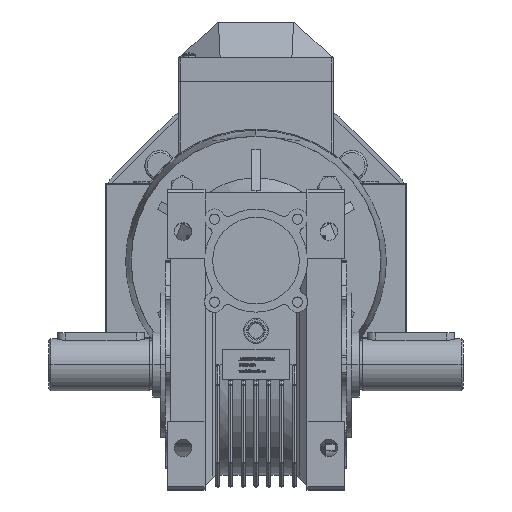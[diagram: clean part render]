
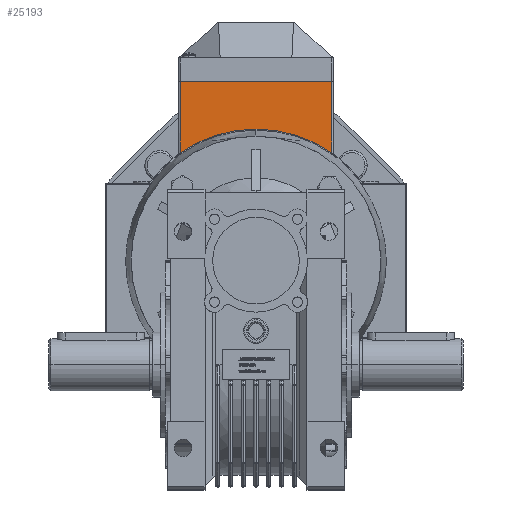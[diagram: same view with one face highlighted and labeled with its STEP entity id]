
A CAD part, top view. The second image highlights one B-rep face of the part: STEP entity #25193.
In plain terms, the highlighted planar face has unit normal (0, 0, 1).
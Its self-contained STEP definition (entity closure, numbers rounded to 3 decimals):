
#6274 = VERTEX_POINT ( 'NONE', #113064 ) ;
#6855 = VERTEX_POINT ( 'NONE', #31164 ) ;
#7013 = CARTESIAN_POINT ( 'NONE',  ( -44.431, 37.282, 0. ) ) ;
#8697 = LINE ( 'NONE', #14786, #37538 ) ;
#9698 = LINE ( 'NONE', #94510, #111152 ) ;
#11033 = DIRECTION ( 'NONE',  ( 1., 0., 0. ) ) ;
#12627 = VECTOR ( 'NONE', #26829, 1000. ) ;
#14446 = CARTESIAN_POINT ( 'NONE',  ( 0., 9.975, 0. ) ) ;
#14786 = CARTESIAN_POINT ( 'NONE',  ( -37.282, 86.25, 0. ) ) ;
#16633 = DIRECTION ( 'NONE',  ( 1., 0., 0. ) ) ;
#16726 = LINE ( 'NONE', #61229, #101669 ) ;
#16894 = VECTOR ( 'NONE', #69734, 1000. ) ;
#17195 = CARTESIAN_POINT ( 'NONE',  ( 0., 0., 0. ) ) ;
#17792 = VERTEX_POINT ( 'NONE', #47936 ) ;
#19367 = PLANE ( 'NONE',  #60235 ) ;
#19618 = VECTOR ( 'NONE', #21458, 1000. ) ;
#21458 = DIRECTION ( 'NONE',  ( 0., -1., 0. ) ) ;
#22588 = CIRCLE ( 'NONE', #62474, 9.975 ) ;
#22839 = EDGE_CURVE ( 'NONE', #30607, #86929, #74321, .T. ) ;
#23674 = EDGE_CURVE ( 'NONE', #75385, #77591, #59273, .T. ) ;
#25193 = ADVANCED_FACE ( 'NONE', ( #97269, #101325 ), #19367, .T. ) ;
#25733 = VERTEX_POINT ( 'NONE', #94686 ) ;
#26250 = DIRECTION ( 'NONE',  ( 0., 1., 0. ) ) ;
#26403 = VERTEX_POINT ( 'NONE', #38519 ) ;
#26829 = DIRECTION ( 'NONE',  ( 0., 1., 0. ) ) ;
#27117 = EDGE_CURVE ( 'NONE', #26403, #32659, #77309, .T. ) ;
#27229 = VERTEX_POINT ( 'NONE', #36037 ) ;
#27876 = CIRCLE ( 'NONE', #83972, 58. ) ;
#29966 = LINE ( 'NONE', #43321, #110843 ) ;
#30607 = VERTEX_POINT ( 'NONE', #67140 ) ;
#31164 = CARTESIAN_POINT ( 'NONE',  ( 44.431, -37.282, 0. ) ) ;
#32659 = VERTEX_POINT ( 'NONE', #52503 ) ;
#32762 = ORIENTED_EDGE ( 'NONE', *, *, #101874, .T. ) ;
#32906 = CARTESIAN_POINT ( 'NONE',  ( 44.431, 37.282, 0. ) ) ;
#34639 = ORIENTED_EDGE ( 'NONE', *, *, #63339, .F. ) ;
#35329 = CARTESIAN_POINT ( 'NONE',  ( -72.5, 37.282, 0. ) ) ;
#35474 = DIRECTION ( 'NONE',  ( 0., 0., 1. ) ) ;
#35919 = DIRECTION ( 'NONE',  ( 0., 0., 1. ) ) ;
#36037 = CARTESIAN_POINT ( 'NONE',  ( 72.5, -37.282, 0. ) ) ;
#37093 = DIRECTION ( 'NONE',  ( 1., 0., 0. ) ) ;
#37538 = VECTOR ( 'NONE', #59624, 1000. ) ;
#37947 = CARTESIAN_POINT ( 'NONE',  ( -36.282, 0., 0. ) ) ;
#38507 = EDGE_CURVE ( 'NONE', #6274, #75385, #9698, .T. ) ;
#38519 = CARTESIAN_POINT ( 'NONE',  ( 36.282, 45.251, 0. ) ) ;
#42521 = DIRECTION ( 'NONE',  ( 1., 0., 0. ) ) ;
#43321 = CARTESIAN_POINT ( 'NONE',  ( 44.431, -37.282, 0. ) ) ;
#43405 = LINE ( 'NONE', #47498, #98182 ) ;
#45955 = DIRECTION ( 'NONE',  ( 0., 0., 1. ) ) ;
#46315 = VERTEX_POINT ( 'NONE', #71435 ) ;
#47106 = CIRCLE ( 'NONE', #109511, 58. ) ;
#47498 = CARTESIAN_POINT ( 'NONE',  ( 72.5, 37.282, 0. ) ) ;
#47596 = EDGE_CURVE ( 'NONE', #17792, #71021, #70375, .T. ) ;
#47936 = CARTESIAN_POINT ( 'NONE',  ( 0., -9.975, 0. ) ) ;
#48813 = ORIENTED_EDGE ( 'NONE', *, *, #22839, .T. ) ;
#50145 = DIRECTION ( 'NONE',  ( -1., 0., 0. ) ) ;
#50712 = DIRECTION ( 'NONE',  ( 0., 0., -1. ) ) ;
#50951 = DIRECTION ( 'NONE',  ( 1., 0., 0. ) ) ;
#52274 = CARTESIAN_POINT ( 'NONE',  ( 44.431, 37.282, 0. ) ) ;
#52275 = CARTESIAN_POINT ( 'NONE',  ( -72.5, 37.282, 0. ) ) ;
#52503 = CARTESIAN_POINT ( 'NONE',  ( 36.282, 86.25, 0. ) ) ;
#53507 = EDGE_LOOP ( 'NONE', ( #76927, #82139, #111057, #34639, #92428, #100742, #32762, #58369, #71921, #48813, #95343, #99788 ) ) ;
#54666 = EDGE_CURVE ( 'NONE', #6855, #27229, #29966, .T. ) ;
#57598 = EDGE_CURVE ( 'NONE', #46315, #25733, #110024, .T. ) ;
#58369 = ORIENTED_EDGE ( 'NONE', *, *, #54666, .T. ) ;
#59151 = EDGE_LOOP ( 'NONE', ( #103372, #90765 ) ) ;
#59273 = LINE ( 'NONE', #35329, #12627 ) ;
#59624 = DIRECTION ( 'NONE',  ( 1., 0., 0. ) ) ;
#60112 = DIRECTION ( 'NONE',  ( 0., 0., 1. ) ) ;
#60235 = AXIS2_PLACEMENT_3D ( 'NONE', #71130, #35919, #106690 ) ;
#60565 = VECTOR ( 'NONE', #50145, 1000. ) ;
#61229 = CARTESIAN_POINT ( 'NONE',  ( -44.431, 37.282, 0. ) ) ;
#62474 = AXIS2_PLACEMENT_3D ( 'NONE', #76400, #50712, #77907 ) ;
#62616 = EDGE_CURVE ( 'NONE', #25733, #93716, #47106, .T. ) ;
#63339 = EDGE_CURVE ( 'NONE', #77591, #93716, #16726, .T. ) ;
#67140 = CARTESIAN_POINT ( 'NONE',  ( 72.5, 37.282, 0. ) ) ;
#67850 = EDGE_CURVE ( 'NONE', #86929, #26403, #27876, .T. ) ;
#69734 = DIRECTION ( 'NONE',  ( 0., 1., 0. ) ) ;
#69915 = CARTESIAN_POINT ( 'NONE',  ( 0., 0., 0. ) ) ;
#70375 = CIRCLE ( 'NONE', #81056, 9.975 ) ;
#70964 = CIRCLE ( 'NONE', #78297, 58. ) ;
#71021 = VERTEX_POINT ( 'NONE', #14446 ) ;
#71130 = CARTESIAN_POINT ( 'NONE',  ( 0., 0., 0. ) ) ;
#71435 = CARTESIAN_POINT ( 'NONE',  ( -36.282, 86.25, 0. ) ) ;
#71921 = ORIENTED_EDGE ( 'NONE', *, *, #84365, .T. ) ;
#73950 = EDGE_CURVE ( 'NONE', #46315, #32659, #8697, .T. ) ;
#74321 = LINE ( 'NONE', #32906, #60565 ) ;
#75385 = VERTEX_POINT ( 'NONE', #77431 ) ;
#76400 = CARTESIAN_POINT ( 'NONE',  ( 0., 0., 0. ) ) ;
#76927 = ORIENTED_EDGE ( 'NONE', *, *, #73950, .F. ) ;
#77309 = LINE ( 'NONE', #105313, #16894 ) ;
#77431 = CARTESIAN_POINT ( 'NONE',  ( -72.5, -37.282, 0. ) ) ;
#77591 = VERTEX_POINT ( 'NONE', #52275 ) ;
#77907 = DIRECTION ( 'NONE',  ( 0., 1., 0. ) ) ;
#78297 = AXIS2_PLACEMENT_3D ( 'NONE', #17195, #60112, #42521 ) ;
#78396 = CARTESIAN_POINT ( 'NONE',  ( 0., 0., 0. ) ) ;
#81056 = AXIS2_PLACEMENT_3D ( 'NONE', #78396, #104771, #26250 ) ;
#82139 = ORIENTED_EDGE ( 'NONE', *, *, #57598, .T. ) ;
#83133 = DIRECTION ( 'NONE',  ( 0., 1., 0. ) ) ;
#83972 = AXIS2_PLACEMENT_3D ( 'NONE', #98406, #45955, #11033 ) ;
#84365 = EDGE_CURVE ( 'NONE', #27229, #30607, #43405, .T. ) ;
#85725 = EDGE_CURVE ( 'NONE', #71021, #17792, #22588, .T. ) ;
#86512 = DIRECTION ( 'NONE',  ( -1., 0., 0. ) ) ;
#86929 = VERTEX_POINT ( 'NONE', #52274 ) ;
#90765 = ORIENTED_EDGE ( 'NONE', *, *, #47596, .T. ) ;
#92428 = ORIENTED_EDGE ( 'NONE', *, *, #23674, .F. ) ;
#93716 = VERTEX_POINT ( 'NONE', #7013 ) ;
#94510 = CARTESIAN_POINT ( 'NONE',  ( -44.431, -37.282, 0. ) ) ;
#94686 = CARTESIAN_POINT ( 'NONE',  ( -36.282, 45.251, 0. ) ) ;
#95343 = ORIENTED_EDGE ( 'NONE', *, *, #67850, .T. ) ;
#97269 = FACE_OUTER_BOUND ( 'NONE', #53507, .T. ) ;
#98182 = VECTOR ( 'NONE', #83133, 1000. ) ;
#98406 = CARTESIAN_POINT ( 'NONE',  ( 0., 0., 0. ) ) ;
#99788 = ORIENTED_EDGE ( 'NONE', *, *, #27117, .T. ) ;
#100742 = ORIENTED_EDGE ( 'NONE', *, *, #38507, .F. ) ;
#101325 = FACE_BOUND ( 'NONE', #59151, .T. ) ;
#101669 = VECTOR ( 'NONE', #37093, 1000. ) ;
#101874 = EDGE_CURVE ( 'NONE', #6274, #6855, #70964, .T. ) ;
#103372 = ORIENTED_EDGE ( 'NONE', *, *, #85725, .T. ) ;
#104771 = DIRECTION ( 'NONE',  ( 0., 0., -1. ) ) ;
#105313 = CARTESIAN_POINT ( 'NONE',  ( 36.282, 0., 0. ) ) ;
#106690 = DIRECTION ( 'NONE',  ( 1., 0., 0. ) ) ;
#109511 = AXIS2_PLACEMENT_3D ( 'NONE', #69915, #35474, #16633 ) ;
#110024 = LINE ( 'NONE', #37947, #19618 ) ;
#110843 = VECTOR ( 'NONE', #50951, 1000. ) ;
#111057 = ORIENTED_EDGE ( 'NONE', *, *, #62616, .T. ) ;
#111152 = VECTOR ( 'NONE', #86512, 1000. ) ;
#113064 = CARTESIAN_POINT ( 'NONE',  ( -44.431, -37.282, 0. ) ) ;
